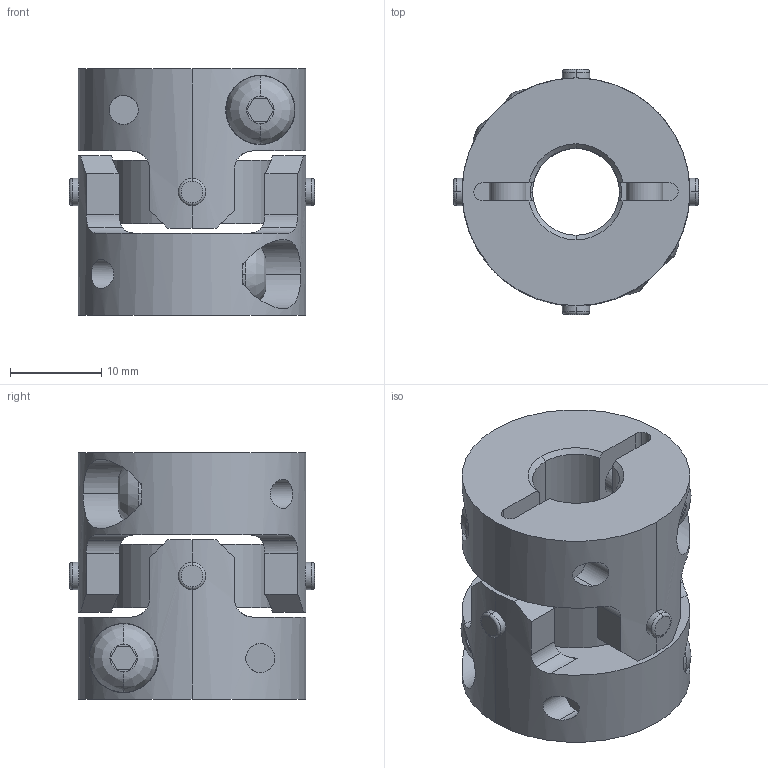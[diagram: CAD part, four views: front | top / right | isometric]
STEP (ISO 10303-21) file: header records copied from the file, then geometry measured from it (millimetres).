
FILE_DESCRIPTION((''),'2;1');
FILE_NAME('UA-25C-9.525×9.525.stp','2013-05-16T09:34:41',(''),(''),'AutoCAD STEP 2000i','AutoCAD 2000i',', , ');
FILE_SCHEMA(('CONFIG_CONTROL_DESIGN'));
Length unit declared in the file: millimetre
Products named in the file (8): UA-25C-9×9; 忣兜1; UA-2502-D09-1; BTN-M4; UA-2502-D09; UA-2502-D05-1; UA-2502-D05; UA25-SEN
Assembly tree (10 placements, depth 3):
  UA-25C-9×9
    忣兜1
    UA-2502-D09-1
      BTN-M4
    UA-2502-D09
      BTN-M4
    UA-2502-D05-1
      BTN-M4
    UA-2502-D05
      BTN-M4
    UA25-SEN
Bounding box: 26.89 x 26.89 x 27 mm (x, y, z)
Volume: 8874.4 mm3; surface area: 6281 mm2
Topology: 1 solids, 1 shells, 210 faces, 570 edges, 372 vertices
Faces by surface type: cylinder 96, plane 82, cone 16, bspline 8, torus 8
Entity records: 8479 total; most frequent: CARTESIAN_POINT 2991, ORIENTED_EDGE 1140, DIRECTION 1104, EDGE_CURVE 570, AXIS2_PLACEMENT_3D 425, VERTEX_POINT 372, VECTOR 254, LINE 254
